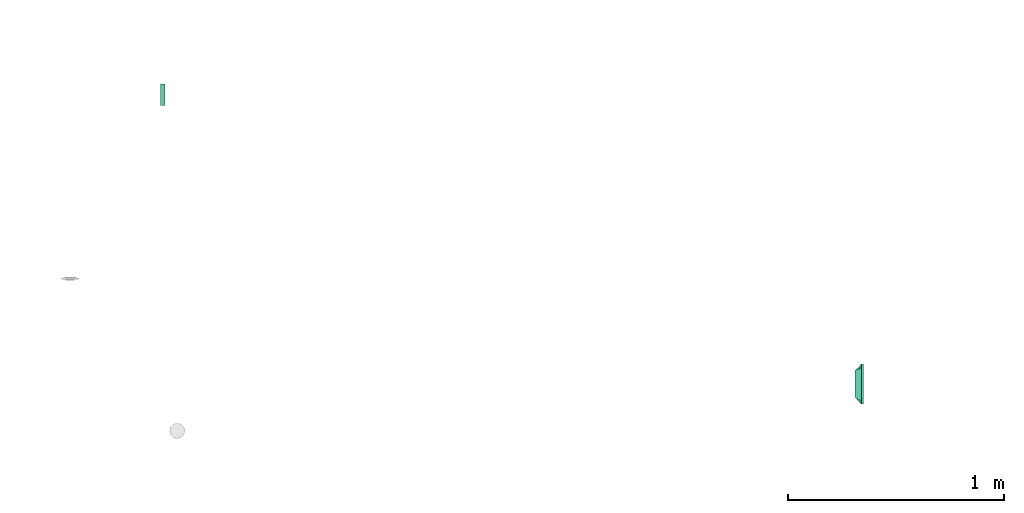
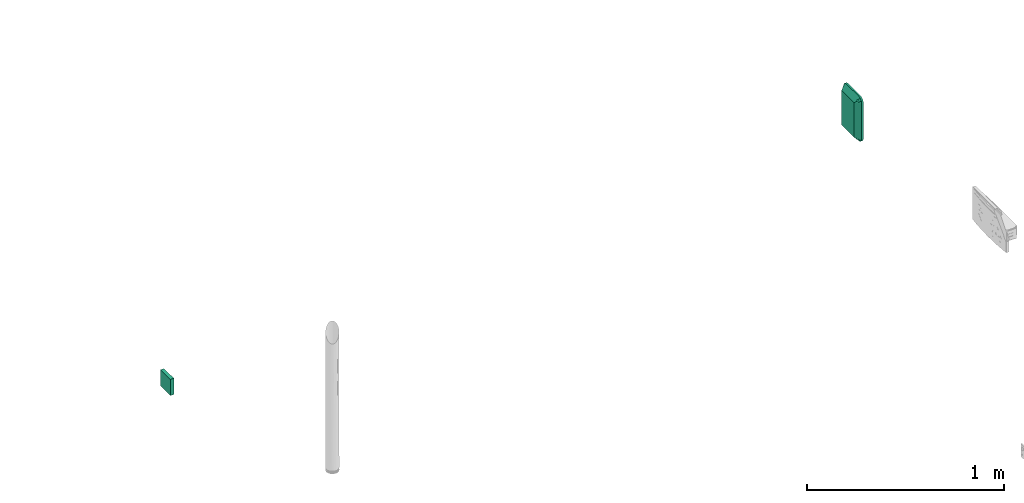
# One storey, part 101 of 153: 2 distribution control elements.
"""IFC2X3 building model written with IfcOpenShell, lengths in metres."""

from ifc_helpers import new_model, entity, si_unit, converted_unit, derived_unit, direction, frame, origin, origin_2d_with_axis, place, context, subcontext, project, spatial, rectangle, extrude, faceted_brep, source, transform, mapped, material, material_list, type_object, type_shapes, element, save


model = new_model("IFC2X3")

# Units and contexts
model_context = context("Model", 3, precision=1e-05, world=origin(), true_north=direction((6.12303176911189e-17, 1.0)))
body_context = subcontext(model_context, "Body", "Model", "MODEL_VIEW")
ifc_project = project(units=[si_unit("LENGTHUNIT", "METRE"), si_unit("AREAUNIT", "SQUARE_METRE"), si_unit("VOLUMEUNIT", "CUBIC_METRE"), converted_unit("PLANEANGLEUNIT", "DEGREE", entity("IfcRatioMeasure", 0.0174532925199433), si_unit("PLANEANGLEUNIT", "RADIAN"), dimensions=[0, 0, 0, 0, 0, 0, 0]), si_unit("MASSUNIT", "GRAM", prefix="KILO"), derived_unit("MASSDENSITYUNIT", [(si_unit("MASSUNIT", "GRAM", prefix="KILO"), 1), (si_unit("LENGTHUNIT", "METRE"), -3)]), si_unit("TIMEUNIT", "SECOND"), si_unit("FREQUENCYUNIT", "HERTZ"), si_unit("THERMODYNAMICTEMPERATUREUNIT", "DEGREE_CELSIUS"), derived_unit("THERMALTRANSMITTANCEUNIT", [(si_unit("MASSUNIT", "GRAM", prefix="KILO"), 1), (si_unit("THERMODYNAMICTEMPERATUREUNIT", "KELVIN"), -1), (si_unit("TIMEUNIT", "SECOND"), -3)]), derived_unit("VOLUMETRICFLOWRATEUNIT", [(si_unit("LENGTHUNIT", "METRE"), 3), (si_unit("TIMEUNIT", "SECOND"), -1)]), si_unit("ELECTRICCURRENTUNIT", "AMPERE"), si_unit("ELECTRICVOLTAGEUNIT", "VOLT"), si_unit("POWERUNIT", "WATT"), si_unit("FORCEUNIT", "NEWTON"), si_unit("ILLUMINANCEUNIT", "LUX"), si_unit("LUMINOUSFLUXUNIT", "LUMEN"), si_unit("LUMINOUSINTENSITYUNIT", "CANDELA"), derived_unit("USERDEFINED", [(si_unit("MASSUNIT", "GRAM", prefix="KILO"), -1), (si_unit("LENGTHUNIT", "METRE"), -2), (si_unit("TIMEUNIT", "SECOND"), 3), (si_unit("LUMINOUSFLUXUNIT", "LUMEN"), 1)]), derived_unit("LINEARVELOCITYUNIT", [(si_unit("LENGTHUNIT", "METRE"), 1), (si_unit("TIMEUNIT", "SECOND"), -1)]), si_unit("PRESSUREUNIT", "PASCAL"), derived_unit("USERDEFINED", [(si_unit("LENGTHUNIT", "METRE"), -2), (si_unit("MASSUNIT", "GRAM", prefix="KILO"), 1), (si_unit("TIMEUNIT", "SECOND"), -2)])], contexts=[model_context])

# Site, building, storey
site_placement = place(None, origin())
site = spatial("IfcSite", under=ifc_project, at=site_placement, Name="Default", CompositionType="ELEMENT")
building_placement = place(site_placement, origin())
building = spatial("IfcBuilding", under=site, at=building_placement, CompositionType="ELEMENT")
storey_placement = place(building_placement, frame((0.0, 0.0, -4.62)))
storey = spatial("IfcBuildingStorey", under=building, at=storey_placement, Name="S02", CompositionType="ELEMENT", Elevation=-4.62)

# Distribution control elements
alarm_type_1 = type_object("IfcAlarmType", Name="Incendie_Déclenheur manuel", PredefinedType="NOTDEFINED")
shared_shape_1 = source(origin(), body_context, "Body", "SweptSolid", [
    extrude(rectangle(XDim=0.1, YDim=0.1, at=origin_2d_with_axis()), frame((0.0, 0.0, 0.0), z_axis=(0.0, 0.0, 1.0), x_axis=(0.0, 1.0, 0.0)), (0.0, 0.0, 1.0), 0.02),
])
type_shapes(alarm_type_1, [shared_shape_1])
distribution_control_element_1_placement = place(building_placement, frame((41.8597436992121, -185.490932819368, -3.56999999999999), z_axis=(1.0, 0.0, 0.0), x_axis=(0.0, 1.0, 0.0)))
element("IfcDistributionControlElement", 1, at=distribution_control_element_1_placement, inside=storey, type_object=alarm_type_1, Name="INT_Déclenheur manuel:Incendie_Déclenheur manuel", ObjectType="INT_Déclenheur manuel:Incendie_Déclenheur manuel", context=body_context, shape_type="MappedRepresentation", body=[
    mapped(shared_shape_1, transform((0.0, 0.0, 0.0), scale=1.0)),
])
ifc_material_1 = material(Name="Default grid")
ifc_material_2 = material(Name="White Plastic")
ifc_material_list_1 = material_list([ifc_material_1, ifc_material_2])
ifc_material_list_2 = material_list([ifc_material_1, ifc_material_2])
alarm_type_2 = type_object("IfcAlarmType", Name="Incendie_Diffuseur sonore", PredefinedType="NOTDEFINED", material=ifc_material_list_2)
shared_shape_2 = source(origin(), body_context, "Body", "Brep", [
    faceted_brep([(0.0625000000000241, 0.107499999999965, 0.0379999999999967), (-0.0624999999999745, 0.107499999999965, 0.0379999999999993), (-0.0624999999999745, -0.107500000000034, 0.0379999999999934), (0.0625000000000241, -0.107500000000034, 0.0379999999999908), (0.0625000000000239, 0.107499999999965, 0.0279999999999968), (0.062500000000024, -0.107500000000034, 0.0279999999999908), (-0.0624999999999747, -0.107500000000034, 0.0279999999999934), (-0.0624999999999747, 0.107499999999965, 0.0279999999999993)], [[[0, 1, 2, 3]], [[4, 5, 6, 7]], [[1, 0, 4, 7]], [[2, 1, 7, 6]], [[3, 2, 6, 5]], [[0, 3, 5, 4]]]),
    faceted_brep([(0.0857355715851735, -0.125245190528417, 0.00999999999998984), (0.0829903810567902, -0.1279903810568, 0.00999999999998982), (0.0802451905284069, -0.130735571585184, 0.0099999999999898), (0.0775000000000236, -0.133480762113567, 0.00999999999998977), (0.0760711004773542, -0.133863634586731, 0.0099999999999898), (0.0746422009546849, -0.134246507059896, 0.00999999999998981), (0.0717844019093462, -0.135012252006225, 0.00999999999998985), (0.0694633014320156, -0.135634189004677, 0.00999999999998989), (0.0671422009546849, -0.136256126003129, 0.00999999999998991), (0.0625000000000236, -0.137500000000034, 0.00999999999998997), (-0.0624999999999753, -0.137500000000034, 0.00999999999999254), (-0.0648211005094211, -0.136878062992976, 0.00999999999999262), (-0.0671422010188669, -0.136256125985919, 0.00999999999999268), (-0.0717844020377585, -0.135012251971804, 0.00999999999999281), (-0.0732133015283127, -0.134629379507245, 0.00999999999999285), (-0.0746422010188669, -0.134246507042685, 0.0099999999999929), (-0.0774999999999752, -0.133480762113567, 0.00999999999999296), (-0.0802451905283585, -0.130735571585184, 0.0099999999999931), (-0.0829903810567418, -0.1279903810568, 0.00999999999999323), (-0.085735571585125, -0.125245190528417, 0.00999999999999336), (-0.0884807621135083, -0.122500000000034, 0.00999999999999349), (-0.0888636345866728, -0.121071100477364, 0.00999999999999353), (-0.0892465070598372, -0.119642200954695, 0.00999999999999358), (-0.0900122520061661, -0.116784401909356, 0.00999999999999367), (-0.0906341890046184, -0.114463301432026, 0.00999999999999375), (-0.0912561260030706, -0.112142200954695, 0.00999999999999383), (-0.0924999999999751, -0.107500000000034, 0.00999999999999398), (-0.0924999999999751, 0.107499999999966, 0.00999999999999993), (-0.0918780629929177, 0.109821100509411, 0.00999999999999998), (-0.0912561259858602, 0.112142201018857, 0.01), (-0.0900122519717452, 0.116784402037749, 0.0100000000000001), (-0.089629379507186, 0.118213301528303, 0.0100000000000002), (-0.0892465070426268, 0.119642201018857, 0.0100000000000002), (-0.0884807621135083, 0.122499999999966, 0.0100000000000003), (-0.085735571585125, 0.125245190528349, 0.0100000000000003), (-0.0829903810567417, 0.127990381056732, 0.0100000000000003), (-0.0802451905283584, 0.130735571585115, 0.0100000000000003), (-0.0774999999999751, 0.133480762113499, 0.0100000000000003), (-0.0760711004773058, 0.133863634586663, 0.0100000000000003), (-0.0746422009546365, 0.134246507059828, 0.0100000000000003), (-0.0717844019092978, 0.135012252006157, 0.0100000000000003), (-0.0694633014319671, 0.135634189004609, 0.0100000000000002), (-0.0671422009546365, 0.136256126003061, 0.0100000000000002), (-0.0624999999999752, 0.137499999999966, 0.0100000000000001), (0.0625000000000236, 0.137499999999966, 0.00999999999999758), (0.0648211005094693, 0.136878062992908, 0.00999999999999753), (0.0671422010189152, 0.136256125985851, 0.00999999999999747), (0.0717844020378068, 0.135012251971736, 0.00999999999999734), (0.073213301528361, 0.134629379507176, 0.0099999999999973), (0.0746422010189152, 0.134246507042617, 0.00999999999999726), (0.0775000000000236, 0.133480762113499, 0.00999999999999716), (0.0802451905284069, 0.130735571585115, 0.00999999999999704), (0.0829903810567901, 0.127990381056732, 0.00999999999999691), (0.0857355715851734, 0.125245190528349, 0.00999999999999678), (0.0884807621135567, 0.122499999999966, 0.00999999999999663), (0.0888636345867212, 0.121071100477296, 0.00999999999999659), (0.0892465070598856, 0.119642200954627, 0.00999999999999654), (0.0900122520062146, 0.116784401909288, 0.00999999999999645), (0.0906341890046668, 0.114463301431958, 0.00999999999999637), (0.0912561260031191, 0.112142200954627, 0.00999999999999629), (0.0925000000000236, 0.107499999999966, 0.00999999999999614), (0.0925000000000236, -0.107500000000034, 0.00999999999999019), (0.0918780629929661, -0.109821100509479, 0.00999999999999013), (0.0912561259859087, -0.112142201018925, 0.00999999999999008), (0.0900122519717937, -0.116784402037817, 0.00999999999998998), (0.0896293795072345, -0.118213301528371, 0.00999999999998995), (0.0892465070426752, -0.119642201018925, 0.00999999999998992), (0.0884807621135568, -0.122500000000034, 0.00999999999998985), (-0.0624999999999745, -0.107500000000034, 0.0379999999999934), (-0.0624999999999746, 0.107499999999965, 0.0379999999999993), (-0.066978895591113, 0.107499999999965, 0.0338196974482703), (-0.0714577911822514, 0.107499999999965, 0.0296393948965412), (-0.0759366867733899, 0.107499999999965, 0.0254590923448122), (-0.0804155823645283, 0.107499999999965, 0.0212787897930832), (-0.0864577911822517, 0.107499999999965, 0.0156393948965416), (-0.0894788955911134, 0.107499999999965, 0.0128196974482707), (-0.0864577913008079, -0.107500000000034, 0.0156393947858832), (-0.0834366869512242, -0.107500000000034, 0.0184590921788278), (-0.0804155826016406, -0.107500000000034, 0.0212787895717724), (-0.0759366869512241, -0.107500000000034, 0.0254590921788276), (-0.0714577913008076, -0.107500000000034, 0.0296393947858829), (-0.066978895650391, -0.107500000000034, 0.0338196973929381), (-0.0624999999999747, -0.116457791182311, 0.0296393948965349), (-0.0624999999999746, -0.111978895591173, 0.0338196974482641), (-0.0624999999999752, -0.134478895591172, 0.0128196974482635), (-0.0624999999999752, -0.131457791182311, 0.0156393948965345), (-0.062499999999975, -0.125415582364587, 0.0212787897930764), (-0.0624999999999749, -0.120936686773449, 0.0254590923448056), (0.0625000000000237, -0.131457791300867, 0.0156393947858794), (0.0625000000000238, -0.128436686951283, 0.0184590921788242), (0.0625000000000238, -0.1254155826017, 0.0212787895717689), (0.0625000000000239, -0.120936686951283, 0.0254590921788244), (0.062500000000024, -0.116457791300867, 0.0296393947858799), (0.0625000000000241, -0.111978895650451, 0.0338196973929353), (0.0625000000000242, -0.107500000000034, 0.0379999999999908), (0.0714577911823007, -0.107500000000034, 0.0296393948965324), (0.0669788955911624, -0.107500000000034, 0.0338196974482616), (0.089478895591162, -0.107500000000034, 0.0128196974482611), (0.0864577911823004, -0.107500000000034, 0.0156393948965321), (0.0804155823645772, -0.107500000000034, 0.0212787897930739), (0.075936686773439, -0.107500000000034, 0.0254590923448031), (0.0864577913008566, 0.107499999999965, 0.0156393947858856), (0.0834366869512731, 0.107499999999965, 0.0184590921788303), (0.0804155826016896, 0.107499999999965, 0.021278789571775), (0.0759366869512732, 0.107499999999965, 0.0254590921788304), (0.0714577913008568, 0.107499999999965, 0.0296393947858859), (0.0669788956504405, 0.107499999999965, 0.0338196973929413), (0.0625000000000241, 0.107499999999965, 0.0379999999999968), (0.062500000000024, 0.116457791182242, 0.0296393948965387), (0.062500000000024, 0.111978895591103, 0.0338196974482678), (0.0625000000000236, 0.134478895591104, 0.0128196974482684), (0.0625000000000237, 0.131457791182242, 0.0156393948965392), (0.0625000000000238, 0.125415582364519, 0.0212787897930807), (0.0625000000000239, 0.12093668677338, 0.0254590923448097), (-0.062499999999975, 0.131457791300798, 0.0156393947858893), (-0.062499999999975, 0.128436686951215, 0.0184590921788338), (-0.0624999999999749, 0.125415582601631, 0.0212787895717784), (-0.0624999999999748, 0.120936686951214, 0.0254590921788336), (-0.0624999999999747, 0.116457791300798, 0.0296393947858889), (-0.0624999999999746, 0.111978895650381, 0.0338196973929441), (0.0625000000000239, 0.107499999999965, 0.0279999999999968), (-0.0624999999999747, 0.107499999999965, 0.0279999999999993), (-0.0624999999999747, -0.107500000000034, 0.0279999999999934), (0.062500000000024, -0.107500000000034, 0.0279999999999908)], [[[0, 1, 2, 3, 4, 5, 6, 7, 8, 9, 10, 11, 12, 13, 14, 15, 16, 17, 18, 19, 20, 21, 22, 23, 24, 25, 26, 27, 28, 29, 30, 31, 32, 33, 34, 35, 36, 37, 38, 39, 40, 41, 42, 43, 44, 45, 46, 47, 48, 49, 50, 51, 52, 53, 54, 55, 56, 57, 58, 59, 60, 61, 62, 63, 64, 65, 66, 67]], [[68, 69, 70, 71, 72, 73, 74, 75, 27, 26, 76, 77, 78, 79, 80, 81]], [[80, 20, 19]], [[82, 17, 16]], [[83, 18, 17]], [[19, 18, 81]], [[20, 80, 79, 78, 77, 76, 26, 25, 24, 23, 22, 21]], [[14, 13, 12, 11, 10, 84, 85, 86, 87, 82, 16, 15]], [[18, 83, 68]], [[82, 83, 17]], [[18, 68, 81]], [[80, 19, 81]], [[9, 88, 89, 90, 91, 92, 93, 94, 68, 83, 82, 87, 86, 85, 84, 10]], [[92, 3, 2]], [[95, 0, 67]], [[96, 1, 0]], [[2, 1, 93]], [[3, 92, 91, 90, 89, 88, 9, 8, 7, 6, 5, 4]], [[65, 64, 63, 62, 61, 97, 98, 99, 100, 95, 67, 66]], [[1, 96, 94]], [[95, 96, 0]], [[1, 94, 93]], [[92, 2, 93]], [[60, 101, 102, 103, 104, 105, 106, 107, 94, 96, 95, 100, 99, 98, 97, 61]], [[105, 54, 53]], [[108, 51, 50]], [[109, 52, 51]], [[53, 52, 106]], [[54, 105, 104, 103, 102, 101, 60, 59, 58, 57, 56, 55]], [[48, 47, 46, 45, 44, 110, 111, 112, 113, 108, 50, 49]], [[52, 109, 107]], [[108, 109, 51]], [[52, 107, 106]], [[105, 53, 106]], [[69, 107, 109, 108, 113, 112, 111, 110, 44, 43, 114, 115, 116, 117, 118, 119]], [[118, 37, 36]], [[71, 34, 33]], [[70, 35, 34]], [[36, 35, 119]], [[37, 118, 117, 116, 115, 114, 43, 42, 41, 40, 39, 38]], [[31, 30, 29, 28, 27, 75, 74, 73, 72, 71, 33, 32]], [[35, 70, 69]], [[71, 70, 34]], [[35, 69, 119]], [[118, 36, 119]], [[120, 121, 122, 123]], [[120, 107, 69, 121]], [[121, 69, 68, 122]], [[122, 68, 94, 123]], [[123, 94, 107, 120]]]),
    faceted_brep([(0.0625000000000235, 0.137499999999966, 0.00999999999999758), (-0.0624999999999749, 0.137499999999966, 0.0100000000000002), (-0.0702645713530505, 0.136477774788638, 0.0100000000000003), (-0.0774999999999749, 0.133480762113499, 0.0100000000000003), (-0.0837132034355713, 0.128713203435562, 0.0100000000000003), (-0.0884807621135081, 0.122499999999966, 0.0100000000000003), (-0.0914777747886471, 0.115264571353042, 0.0100000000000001), (-0.0924999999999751, 0.107499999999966, 0.00999999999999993), (-0.0924999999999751, -0.107500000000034, 0.00999999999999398), (-0.0914777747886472, -0.115264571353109, 0.00999999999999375), (-0.0884807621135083, -0.122500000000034, 0.00999999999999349), (-0.0837132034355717, -0.12871320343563, 0.00999999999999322), (-0.0774999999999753, -0.133480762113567, 0.00999999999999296), (-0.0702645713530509, -0.136477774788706, 0.00999999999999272), (-0.0624999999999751, -0.137500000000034, 0.00999999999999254), (0.0625000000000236, -0.137500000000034, 0.00999999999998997), (0.0702645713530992, -0.136477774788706, 0.00999999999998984), (0.0775000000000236, -0.133480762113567, 0.00999999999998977), (0.08371320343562, -0.12871320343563, 0.00999999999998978), (0.0884807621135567, -0.122500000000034, 0.00999999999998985), (0.0914777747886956, -0.115264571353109, 0.00999999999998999), (0.0925000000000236, -0.107500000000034, 0.00999999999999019), (0.0925000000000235, 0.107499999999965, 0.00999999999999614), (0.0914777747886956, 0.115264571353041, 0.00999999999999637), (0.0884807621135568, 0.122499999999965, 0.00999999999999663), (0.0837132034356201, 0.128713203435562, 0.0099999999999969), (0.0775000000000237, 0.133480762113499, 0.00999999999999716), (0.0702645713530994, 0.136477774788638, 0.00999999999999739), (-0.0624999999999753, 0.137499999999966, 0.0), (0.0625000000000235, 0.137499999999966, 0.0), (0.0702645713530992, 0.136477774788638, 0.0), (0.0775000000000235, 0.133480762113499, 0.0), (0.0837132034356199, 0.128713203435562, 0.0), (0.0884807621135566, 0.122499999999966, 0.0), (0.0914777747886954, 0.115264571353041, 0.0), (0.0925000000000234, 0.107499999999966, 0.0), (0.0925000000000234, -0.107500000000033, 0.0), (0.0914777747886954, -0.115264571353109, 0.0), (0.0884807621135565, -0.122500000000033, 0.0), (0.0837132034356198, -0.12871320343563, 0.0), (0.0775000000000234, -0.133480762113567, 0.0), (0.070264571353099, -0.136477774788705, 0.0), (0.0625000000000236, -0.137500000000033, 0.0), (-0.0624999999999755, -0.137500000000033, 0.0), (-0.0702645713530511, -0.136477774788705, 0.0), (-0.0774999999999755, -0.133480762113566, 0.0), (-0.0837132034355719, -0.12871320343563, 0.0), (-0.0884807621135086, -0.122500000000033, 0.0), (-0.0914777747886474, -0.115264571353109, 0.0), (-0.0924999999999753, -0.107500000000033, 0.0), (-0.0924999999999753, 0.107499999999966, 0.0), (-0.0914777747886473, 0.115264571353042, 0.0), (-0.0884807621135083, 0.122499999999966, 0.0), (-0.0837132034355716, 0.128713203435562, 0.0), (-0.0774999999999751, 0.133480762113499, 0.0), (-0.0702645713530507, 0.136477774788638, 0.0)], [[[0, 1, 2, 3, 4, 5, 6, 7, 8, 9, 10, 11, 12, 13, 14, 15, 16, 17, 18, 19, 20, 21, 22, 23, 24, 25, 26, 27]], [[28, 29, 30, 31, 32, 33, 34, 35, 36, 37, 38, 39, 40, 41, 42, 43, 44, 45, 46, 47, 48, 49, 50, 51, 52, 53, 54, 55]], [[1, 0, 29, 28]], [[2, 1, 28, 55]], [[3, 2, 55, 54]], [[4, 3, 54, 53]], [[5, 4, 53, 52]], [[6, 5, 52, 51]], [[7, 6, 51, 50]], [[8, 7, 50, 49]], [[9, 8, 49, 48]], [[10, 9, 48, 47]], [[11, 10, 47, 46]], [[12, 11, 46, 45]], [[13, 12, 45, 44]], [[14, 13, 44, 43]], [[15, 14, 43, 42]], [[16, 15, 42, 41]], [[17, 16, 41, 40]], [[18, 17, 40, 39]], [[19, 18, 39, 38]], [[20, 19, 38, 37]], [[21, 20, 37, 36]], [[22, 21, 36, 35]], [[23, 22, 35, 34]], [[24, 23, 34, 33]], [[25, 24, 33, 32]], [[26, 25, 32, 31]], [[27, 26, 31, 30]], [[0, 27, 30, 29]]]),
])
type_shapes(alarm_type_2, [shared_shape_2])
distribution_control_element_2_placement = place(building_placement, frame((45.1197436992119, -186.832919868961, -2.21999999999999), z_axis=(-1.0, 0.0, 0.0), x_axis=(0.0, -1.0, 0.0)))
element("IfcDistributionControlElement", 2, at=distribution_control_element_2_placement, inside=storey, type_object=alarm_type_2, material=ifc_material_list_1, Name="INT_DIffuseur sonore:Incendie_Diffuseur sonore", ObjectType="INT_DIffuseur sonore:Incendie_Diffuseur sonore", context=body_context, shape_type="MappedRepresentation", body=[
    mapped(shared_shape_2, transform((0.0, 0.0, 0.0), scale=1.0)),
])

save(model, "model.ifc")
